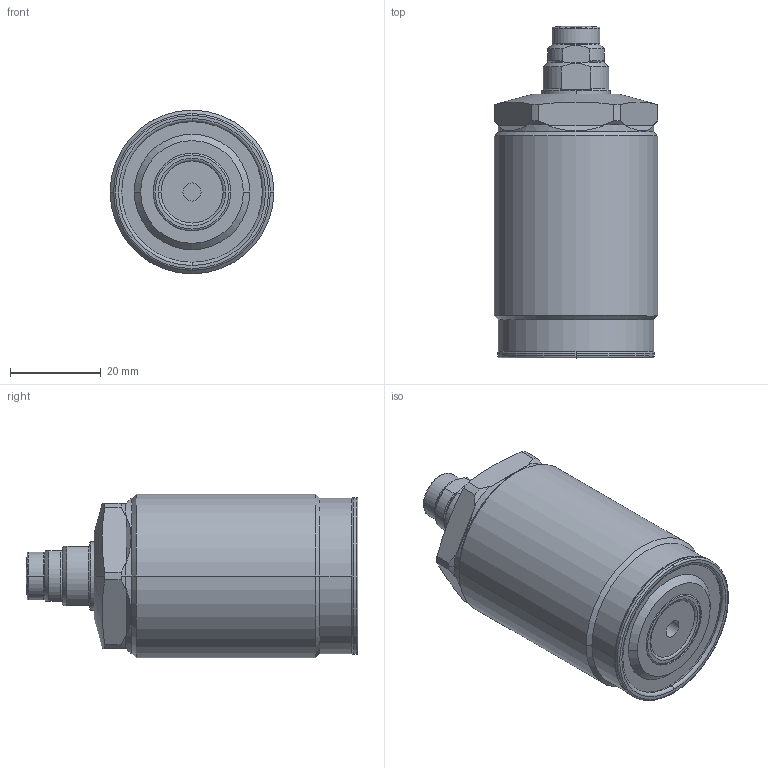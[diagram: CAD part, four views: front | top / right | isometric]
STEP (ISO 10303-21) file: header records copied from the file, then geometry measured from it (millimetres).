
FILE_DESCRIPTION(/* description */ (''),/* implementation_level */ '2;1');
FILE_NAME(/* name */ 'TSC36-M.stp',/* time_stamp */ '2025-01-10T15:27:49+08:00',/* author */ (''),/* organization */ (''),/* preprocessor_version */ 'ST-DEVELOPER v16.7',/* originating_system */ 'SIEMENS PLM Software NX 12.0',/* authorisation */ '');
FILE_SCHEMA (('AUTOMOTIVE_DESIGN { 1 0 10303 214 3 1 1 1 }'));
Length unit declared in the file: millimetre
Products named in the file (11): XLC-M10_Oring166; XLC-M10SP_pin167; XLC-M10SP_contactbolt168; XLC-M10SP_pad169; XLC-M10_Oring736170; TSC36-M-01171; TSC36-M-04172; TSC36-M-03173; TSC36-M-0015; TSC36-M-01175; TSC36-M_stp
Assembly tree (10 placements, depth 3):
  TSC36-M_stp
    TSC36-M-01175
      XLC-M10_Oring736170
    TSC36-M-03173
    TSC36-M-04172
    TSC36-M-01171
    TSC36-M-0015
      XLC-M10SP_pad169
      XLC-M10SP_contactbolt168
      XLC-M10SP_pin167
      XLC-M10_Oring166
Bounding box: 36 x 73 x 36 mm (x, y, z)
Volume: 56003.8 mm3; surface area: 12575.4 mm2
Topology: 8 solids, 8 shells, 199 faces, 445 edges, 274 vertices
Faces by surface type: cylinder 62, plane 46, torus 44, cone 41, sphere 6
Full cylindrical faces by diameter (mm): 4 x1
Entity records: 6240 total; most frequent: CARTESIAN_POINT 1426, DIRECTION 1068, ORIENTED_EDGE 888, AXIS2_PLACEMENT_3D 468, EDGE_CURVE 444, VERTEX_POINT 274, CIRCLE 258, EDGE_LOOP 226
